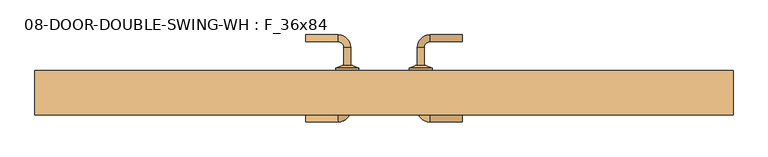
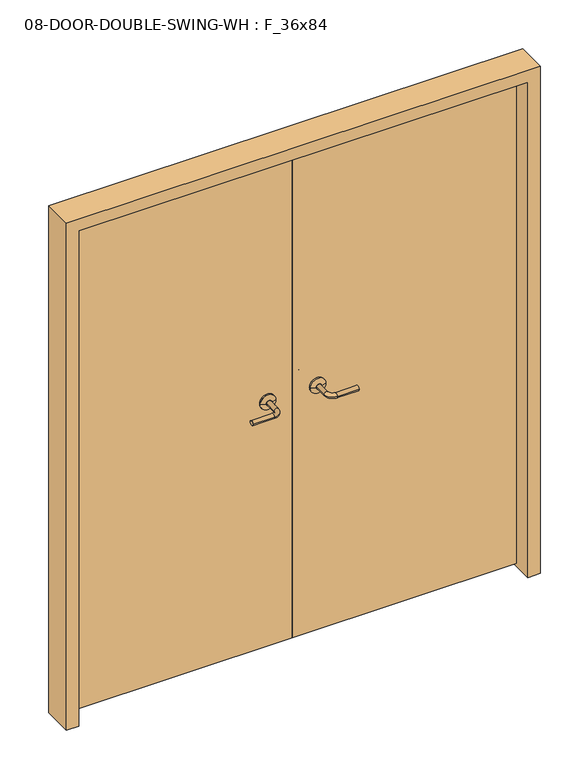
"""IFC4 building model written with IfcOpenShell, lengths in millimetres: door geometry, 08-DOOR-DOUBLE-SWING-WH : F_36x84."""

from ifc_helpers import new_model, si_unit, point, frame, origin, place, context, project, spatial, polyline, circle_curve, ellipse_curve, trimmed, outline, extrude, source, transform, mapped, element, save
from ifc_brep_helpers import plane_surface, cylinder_surface, revolved_surface, advanced_brep


def door_08_door_double_swing_wh_f_36x84_f193bb77(model_context):
    return source(origin(), model_context, "Body", "SolidModel", [
        advanced_brep(
        [(129.4903202, 4.7625, 1066.8), (110.4403202, 4.7625, 1066.8), (129.4903202, -46.0375, 1066.8), (110.4403202, -46.0375, 1066.8), (145.3653202, -61.9125, 1066.8), (145.3653202, -80.9625, 1066.8), (234.2653202, -61.9125, 1066.8), (234.2653202, -80.9625, 1066.8)],
        [
            (0, 1, circle_curve(frame((119.9653202, 4.7625, 1066.8), z_axis=(0.0, 1.0, 0.0), x_axis=(-1.0, 0.0, 0.0)), 9.525)),
            (1, 0, circle_curve(frame((119.9653202, 4.7625, 1066.8), z_axis=(0.0, 1.0, 0.0), x_axis=(-1.0, 0.0, 0.0)), 9.525)),
            (0, 2),
            (2, 3, circle_curve(frame((119.9653202, -46.0375, 1066.8), z_axis=(0.0, 1.0, 0.0), x_axis=(-1.0, 0.0, 0.0)), 9.525)),
            (3, 1),
            (3, 2, circle_curve(frame((119.9653202, -46.0375, 1066.8), z_axis=(0.0, 1.0, 0.0), x_axis=(-1.0, 0.0, 0.0)), 9.525)),
            (4, 5, circle_curve(frame((145.3653202, -71.4375, 1066.8), z_axis=(-1.0, 0.0, 0.0), x_axis=(0.0, -1.0, 0.0)), 9.525)),
            (5, 3, circle_curve(frame((145.3653202, -46.0375, 1066.8), z_axis=(0.0, 0.0, -1.0), x_axis=(-1.0, 0.0, 0.0)), 34.925)),
            (2, 4, circle_curve(frame((145.3653202, -46.0375, 1066.8), z_axis=(0.0, 0.0, 1.0), x_axis=(-1.0, 0.0, 0.0)), 15.875)),
            (5, 4, circle_curve(frame((145.3653202, -71.4375, 1066.8), z_axis=(-1.0, 0.0, 0.0), x_axis=(0.0, -1.0, 0.0)), 9.525)),
            (6, 7, circle_curve(frame((234.2653202, -71.4375, 1066.8), z_axis=(1.0, 0.0, 0.0), x_axis=(0.0, -1.0, 0.0)), 9.525)),
            (7, 6, circle_curve(frame((234.2653202, -71.4375, 1066.8), z_axis=(1.0, 0.0, 0.0), x_axis=(0.0, -1.0, 0.0)), 9.525)),
            (4, 6),
            (7, 5),
        ],
        [
            plane_surface(frame((119.9653202, 4.7625, 1066.8), z_axis=(0.0, 1.0, 0.0), x_axis=(0.0, 0.0, 1.0))),
            cylinder_surface(frame((119.9653202, 4.7625, 1066.8), z_axis=(0.0, 1.0, 0.0), x_axis=(-1.0, 0.0, 0.0)), 9.525),
            revolved_surface(trimmed(ellipse_curve(frame((119.9653202, -46.0375, 1066.8), z_axis=(0.0, -1.0, 0.0), x_axis=(-1.0, 0.0, 0.0)), 9.525, 9.525), [point((110.4403202, -46.0375, 1066.8))], [point((129.4903202, -46.0375, 1066.8))], True, "CARTESIAN"), (145.3653202, -46.0375, 1066.8), (0.0, 0.0, -1.0)),
            revolved_surface(trimmed(ellipse_curve(frame((119.9653202, -46.0375, 1066.8), z_axis=(0.0, -1.0, 0.0), x_axis=(-1.0, 0.0, 0.0)), 9.525, 9.525), [point((129.4903202, -46.0375, 1066.8))], [point((110.4403202, -46.0375, 1066.8))], True, "CARTESIAN"), (145.3653202, -46.0375, 1066.8), (0.0, 0.0, -1.0)),
            plane_surface(frame((234.2653202, -71.4375, 1066.8), z_axis=(1.0, 0.0, 0.0), x_axis=(0.0, 0.0, 1.0))),
            cylinder_surface(frame((145.3653202, -71.4375, 1066.8), z_axis=(-1.0, 0.0, 0.0), x_axis=(0.0, -1.0, 0.0)), 9.525),
        ],
        [
            (0, [[1, 2]]),
            (1, [[3, 4, 5, -1]]),
            (1, [[-5, 6, -3, -2]]),
            (2, [[7, 8, -4, 9]]),
            (3, [[10, -9, -6, -8]]),
            (4, [[11, 12]]),
            (5, [[13, -12, 14, -7]]),
            (5, [[-14, -11, -13, -10]]),
        ],
    ),
        advanced_brep(
        [(119.9653202, 17.4625, 1066.8), (151.7153202, 17.4625, 1066.8), (88.2153202, 17.4625, 1066.8), (151.7153202, 11.1125, 1066.8), (88.2153202, 11.1125, 1066.8), (132.6653202, 4.7625, 1066.8), (107.2653202, 4.7625, 1066.8), (119.9653202, 4.7625, 1066.8)],
        [
            (0, 1),
            (1, 2, circle_curve(frame((119.9653202, 17.4625, 1066.8), z_axis=(0.0, 1.0, 0.0), x_axis=(-1.0, 0.0, 0.0)), 31.75)),
            (2, 0),
            (2, 1, circle_curve(frame((119.9653202, 17.4625, 1066.8), z_axis=(0.0, 1.0, 0.0), x_axis=(-1.0, 0.0, 0.0)), 31.75)),
            (1, 3),
            (3, 4, circle_curve(frame((119.9653202, 11.1125, 1066.8), z_axis=(0.0, 1.0, 0.0), x_axis=(-1.0, 0.0, 0.0)), 31.75)),
            (4, 2),
            (4, 3, circle_curve(frame((119.9653202, 11.1125, 1066.8), z_axis=(0.0, 1.0, 0.0), x_axis=(-1.0, 0.0, 0.0)), 31.75)),
            (3, 5),
            (5, 6, circle_curve(frame((119.9653202, 4.7625, 1066.8), z_axis=(0.0, 1.0, 0.0), x_axis=(-1.0, 0.0, 0.0)), 12.7)),
            (6, 4),
            (6, 5, circle_curve(frame((119.9653202, 4.7625, 1066.8), z_axis=(0.0, 1.0, 0.0), x_axis=(-1.0, 0.0, 0.0)), 12.7)),
            (5, 7),
            (7, 6),
        ],
        [
            plane_surface(frame((119.9653202, 17.4625, 1066.8), z_axis=(0.0, 1.0, 0.0), x_axis=(-1.0, 0.0, 0.0))),
            cylinder_surface(frame((119.9653202, 7.8543504, 1066.8), z_axis=(0.0, 1.0, 0.0), x_axis=(-1.0, 0.0, 0.0)), 31.75),
            revolved_surface(polyline([(107.2653202, 4.7625, 1066.8), (88.2153202, 11.1125, 1066.8)]), (119.9653202, 7.8543504, 1066.8), (0.0, 1.0, 0.0)),
            plane_surface(frame((119.9653202, 4.7625, 1066.8), z_axis=(0.0, -1.0, 0.0), x_axis=(-1.0, 0.0, 0.0))),
        ],
        [
            (0, [[1, 2, 3]]),
            (0, [[-3, 4, -1]]),
            (1, [[5, 6, 7, -2]]),
            (1, [[-7, 8, -5, -4]]),
            (2, [[9, 10, 11, -6]]),
            (2, [[-11, 12, -9, -8]]),
            (3, [[13, 14, -10]]),
            (3, [[-14, -13, -12]]),
        ],
    ),
        advanced_brep(
        [(-92.7596798, 4.7625, 1066.8), (-73.7096798, 4.7625, 1066.8), (-73.7096798, -46.0375, 1066.8), (-92.7596798, -46.0375, 1066.8), (-108.6346798, -61.9125, 1066.8), (-108.6346798, -80.9625, 1066.8), (-197.5346798, -61.9125, 1066.8), (-197.5346798, -80.9625, 1066.8)],
        [
            (0, 1, circle_curve(frame((-83.2346798, 4.7625, 1066.8), z_axis=(0.0, 1.0, 0.0), x_axis=(1.0, 0.0, 0.0)), 9.525)),
            (1, 0, circle_curve(frame((-83.2346798, 4.7625, 1066.8), z_axis=(0.0, 1.0, 0.0), x_axis=(1.0, 0.0, 0.0)), 9.525)),
            (1, 2),
            (2, 3, circle_curve(frame((-83.2346798, -46.0375, 1066.8), z_axis=(0.0, 1.0, 0.0), x_axis=(1.0, 0.0, 0.0)), 9.525)),
            (3, 0),
            (3, 2, circle_curve(frame((-83.2346798, -46.0375, 1066.8), z_axis=(0.0, 1.0, 0.0), x_axis=(1.0, 0.0, 0.0)), 9.525)),
            (4, 3, circle_curve(frame((-108.6346798, -46.0375, 1066.8), z_axis=(0.0, 0.0, 1.0), x_axis=(1.0, 0.0, 0.0)), 15.875)),
            (2, 5, circle_curve(frame((-108.6346798, -46.0375, 1066.8), z_axis=(0.0, 0.0, -1.0), x_axis=(1.0, 0.0, 0.0)), 34.925)),
            (5, 4, circle_curve(frame((-108.6346798, -71.4375, 1066.8), z_axis=(1.0, 0.0, 0.0), x_axis=(0.0, -1.0, 0.0)), 9.525)),
            (4, 5, circle_curve(frame((-108.6346798, -71.4375, 1066.8), z_axis=(1.0, 0.0, 0.0), x_axis=(0.0, -1.0, 0.0)), 9.525)),
            (6, 7, circle_curve(frame((-197.5346798, -71.4375, 1066.8), z_axis=(-1.0, 0.0, 0.0), x_axis=(0.0, -1.0, 0.0)), 9.525)),
            (7, 6, circle_curve(frame((-197.5346798, -71.4375, 1066.8), z_axis=(-1.0, 0.0, 0.0), x_axis=(0.0, -1.0, 0.0)), 9.525)),
            (5, 7),
            (6, 4),
        ],
        [
            plane_surface(frame((-83.2346798, 4.7625, 1066.8), z_axis=(0.0, 1.0, 0.0), x_axis=(0.0, 0.0, 1.0))),
            cylinder_surface(frame((-83.2346798, 4.7625, 1066.8), z_axis=(0.0, 1.0, 0.0), x_axis=(1.0, 0.0, 0.0)), 9.525),
            revolved_surface(trimmed(ellipse_curve(frame((-83.2346798, -46.0375, 1066.8), z_axis=(0.0, 1.0, 0.0), x_axis=(1.0, 0.0, 0.0)), 9.525, 9.525), [point((-73.7096798, -46.0375, 1066.8))], [point((-92.7596798, -46.0375, 1066.8))], True, "CARTESIAN"), (-108.6346798, -46.0375, 1066.8), (0.0, 0.0, -1.0)),
            revolved_surface(trimmed(ellipse_curve(frame((-83.2346798, -46.0375, 1066.8), z_axis=(0.0, 1.0, 0.0), x_axis=(1.0, 0.0, 0.0)), 9.525, 9.525), [point((-92.7596798, -46.0375, 1066.8))], [point((-73.7096798, -46.0375, 1066.8))], True, "CARTESIAN"), (-108.6346798, -46.0375, 1066.8), (0.0, 0.0, -1.0)),
            plane_surface(frame((-197.5346798, -71.4375, 1066.8), z_axis=(-1.0, 0.0, 0.0), x_axis=(0.0, 0.0, 1.0))),
            cylinder_surface(frame((-108.6346798, -71.4375, 1066.8), z_axis=(1.0, 0.0, 0.0), x_axis=(0.0, -1.0, 0.0)), 9.525),
        ],
        [
            (0, [[1, 2]]),
            (1, [[-2, 3, 4, 5]]),
            (1, [[-1, -5, 6, -3]]),
            (2, [[7, -4, 8, 9]]),
            (3, [[-8, -6, -7, 10]]),
            (4, [[11, 12]]),
            (5, [[-9, 13, -11, 14]]),
            (5, [[-10, -14, -12, -13]]),
        ],
    ),
        advanced_brep(
        [(-83.2346798, 17.4625, 1066.8), (-51.4846798, 17.4625, 1066.8), (-114.9846798, 17.4625, 1066.8), (-51.4846798, 11.1125, 1066.8), (-114.9846798, 11.1125, 1066.8), (-70.5346798, 4.7625, 1066.8), (-95.9346798, 4.7625, 1066.8), (-83.2346798, 4.7625, 1066.8)],
        [
            (0, 1),
            (1, 2, circle_curve(frame((-83.2346798, 17.4625, 1066.8), z_axis=(0.0, 1.0, 0.0), x_axis=(1.0, 0.0, 0.0)), 31.75)),
            (2, 0),
            (2, 1, circle_curve(frame((-83.2346798, 17.4625, 1066.8), z_axis=(0.0, 1.0, 0.0), x_axis=(1.0, 0.0, 0.0)), 31.75)),
            (1, 3),
            (3, 4, circle_curve(frame((-83.2346798, 11.1125, 1066.8), z_axis=(0.0, 1.0, 0.0), x_axis=(1.0, 0.0, 0.0)), 31.75)),
            (4, 2),
            (4, 3, circle_curve(frame((-83.2346798, 11.1125, 1066.8), z_axis=(0.0, 1.0, 0.0), x_axis=(1.0, 0.0, 0.0)), 31.75)),
            (3, 5),
            (5, 6, circle_curve(frame((-83.2346798, 4.7625, 1066.8), z_axis=(0.0, 1.0, 0.0), x_axis=(1.0, 0.0, 0.0)), 12.7)),
            (6, 4),
            (6, 5, circle_curve(frame((-83.2346798, 4.7625, 1066.8), z_axis=(0.0, 1.0, 0.0), x_axis=(1.0, 0.0, 0.0)), 12.7)),
            (5, 7),
            (7, 6),
        ],
        [
            plane_surface(frame((-83.2346798, 17.4625, 1066.8), z_axis=(0.0, 1.0, 0.0), x_axis=(1.0, 0.0, 0.0))),
            cylinder_surface(frame((-83.2346798, 7.8543504, 1066.8), z_axis=(0.0, 1.0, 0.0), x_axis=(1.0, 0.0, 0.0)), 31.75),
            revolved_surface(polyline([(-70.5346798, 4.7625, 1066.8), (-51.4846798, 11.1125, 1066.8)]), (-83.2346798, 7.8543504, 1066.8), (0.0, 1.0, 0.0)),
            plane_surface(frame((-83.2346798, 4.7625, 1066.8), z_axis=(0.0, -1.0, 0.0), x_axis=(1.0, 0.0, 0.0))),
        ],
        [
            (0, [[1, 2, 3]]),
            (0, [[-3, 4, -1]]),
            (1, [[-2, 5, 6, 7]]),
            (1, [[-4, -7, 8, -5]]),
            (2, [[-6, 9, 10, 11]]),
            (2, [[-8, -11, 12, -9]]),
            (3, [[-10, 13, 14]]),
            (3, [[-12, -14, -13]]),
        ],
    ),
        advanced_brep(
        [(110.4403202, 74.6125, 1066.8), (129.4903202, 74.6125, 1066.8), (129.4903202, 125.4125, 1066.8), (110.4403202, 125.4125, 1066.8), (145.3653202, 141.2875, 1066.8), (145.3653202, 160.3375, 1066.8), (234.2653202, 160.3375, 1066.8), (234.2653202, 141.2875, 1066.8)],
        [
            (0, 1, circle_curve(frame((119.9653202, 74.6125, 1066.8), z_axis=(0.0, -1.0, 0.0), x_axis=(1.0, 0.0, 0.0)), 9.525)),
            (1, 0, circle_curve(frame((119.9653202, 74.6125, 1066.8), z_axis=(0.0, -1.0, 0.0), x_axis=(1.0, 0.0, 0.0)), 9.525)),
            (1, 2),
            (2, 3, circle_curve(frame((119.9653202, 125.4125, 1066.8), z_axis=(0.0, -1.0, 0.0), x_axis=(1.0, 0.0, 0.0)), 9.525)),
            (3, 0),
            (3, 2, circle_curve(frame((119.9653202, 125.4125, 1066.8), z_axis=(0.0, -1.0, 0.0), x_axis=(1.0, 0.0, 0.0)), 9.525)),
            (4, 5, circle_curve(frame((145.3653202, 150.8125, 1066.8), z_axis=(-1.0, 0.0, 0.0), x_axis=(0.0, -1.0, 0.0)), 9.525)),
            (5, 3, circle_curve(frame((145.3653202, 125.4125, 1066.8), z_axis=(0.0, 0.0, 1.0), x_axis=(-1.0, 0.0, 0.0)), 34.925)),
            (2, 4, circle_curve(frame((145.3653202, 125.4125, 1066.8), z_axis=(0.0, 0.0, -1.0), x_axis=(-1.0, 0.0, 0.0)), 15.875)),
            (5, 4, circle_curve(frame((145.3653202, 150.8125, 1066.8), z_axis=(-1.0, 0.0, 0.0), x_axis=(0.0, -1.0, 0.0)), 9.525)),
            (6, 7, circle_curve(frame((234.2653202, 150.8125, 1066.8), z_axis=(1.0, 0.0, 0.0), x_axis=(0.0, -1.0, 0.0)), 9.525)),
            (7, 6, circle_curve(frame((234.2653202, 150.8125, 1066.8), z_axis=(1.0, 0.0, 0.0), x_axis=(0.0, -1.0, 0.0)), 9.525)),
            (4, 7),
            (6, 5),
        ],
        [
            plane_surface(frame((119.9653202, 74.6125, 1066.8), z_axis=(0.0, -1.0, 0.0), x_axis=(0.0, 0.0, 1.0))),
            cylinder_surface(frame((119.9653202, 74.6125, 1066.8), z_axis=(0.0, -1.0, 0.0), x_axis=(1.0, 0.0, 0.0)), 9.525),
            revolved_surface(trimmed(ellipse_curve(frame((119.9653202, 125.4125, 1066.8), z_axis=(0.0, 1.0, 0.0), x_axis=(1.0, 0.0, 0.0)), 9.525, 9.525), [point((110.4403202, 125.4125, 1066.8))], [point((129.4903202, 125.4125, 1066.8))], True, "CARTESIAN"), (145.3653202, 125.4125, 1066.8), (0.0, 0.0, 1.0)),
            revolved_surface(trimmed(ellipse_curve(frame((119.9653202, 125.4125, 1066.8), z_axis=(0.0, 1.0, 0.0), x_axis=(1.0, 0.0, 0.0)), 9.525, 9.525), [point((129.4903202, 125.4125, 1066.8))], [point((110.4403202, 125.4125, 1066.8))], True, "CARTESIAN"), (145.3653202, 125.4125, 1066.8), (0.0, 0.0, 1.0)),
            plane_surface(frame((234.2653202, 150.8125, 1066.8), z_axis=(1.0, 0.0, 0.0), x_axis=(0.0, 0.0, 1.0))),
            cylinder_surface(frame((145.3653202, 150.8125, 1066.8), z_axis=(-1.0, 0.0, 0.0), x_axis=(0.0, -1.0, 0.0)), 9.525),
        ],
        [
            (0, [[1, 2]]),
            (1, [[3, 4, 5, -2]]),
            (1, [[-5, 6, -3, -1]]),
            (2, [[7, 8, -4, 9]]),
            (3, [[10, -9, -6, -8]]),
            (4, [[11, 12]]),
            (5, [[13, -11, 14, -7]]),
            (5, [[-14, -12, -13, -10]]),
        ],
    ),
        advanced_brep(
        [(151.7153202, 61.9125, 1066.8), (119.9653202, 61.9125, 1066.8), (88.2153202, 61.9125, 1066.8), (151.7153202, 68.2625, 1066.8), (88.2153202, 68.2625, 1066.8), (132.6653202, 74.6125, 1066.8), (107.2653202, 74.6125, 1066.8), (119.9653202, 74.6125, 1066.8)],
        [
            (0, 1),
            (1, 2),
            (2, 0, circle_curve(frame((119.9653202, 61.9125, 1066.8), z_axis=(0.0, -1.0, 0.0), x_axis=(-1.0, 0.0, 0.0)), 31.75)),
            (0, 2, circle_curve(frame((119.9653202, 61.9125, 1066.8), z_axis=(0.0, -1.0, 0.0), x_axis=(-1.0, 0.0, 0.0)), 31.75)),
            (3, 0),
            (2, 4),
            (4, 3, circle_curve(frame((119.9653202, 68.2625, 1066.8), z_axis=(0.0, -1.0, 0.0), x_axis=(-1.0, 0.0, 0.0)), 31.75)),
            (3, 4, circle_curve(frame((119.9653202, 68.2625, 1066.8), z_axis=(0.0, -1.0, 0.0), x_axis=(-1.0, 0.0, 0.0)), 31.75)),
            (5, 3),
            (4, 6),
            (6, 5, circle_curve(frame((119.9653202, 74.6125, 1066.8), z_axis=(0.0, -1.0, 0.0), x_axis=(-1.0, 0.0, 0.0)), 12.7)),
            (5, 6, circle_curve(frame((119.9653202, 74.6125, 1066.8), z_axis=(0.0, -1.0, 0.0), x_axis=(-1.0, 0.0, 0.0)), 12.7)),
            (7, 5),
            (6, 7),
        ],
        [
            plane_surface(frame((119.9653202, 61.9125, 1066.8), z_axis=(0.0, -1.0, 0.0), x_axis=(-1.0, 0.0, 0.0))),
            cylinder_surface(frame((119.9653202, 71.5206496, 1066.8), z_axis=(0.0, 1.0, 0.0), x_axis=(-1.0, 0.0, 0.0)), 31.75),
            revolved_surface(polyline([(88.2153202, 68.2625, 1066.8), (107.2653202, 74.6125, 1066.8)]), (119.9653202, 71.5206496, 1066.8), (0.0, 1.0, 0.0)),
            plane_surface(frame((119.9653202, 74.6125, 1066.8), z_axis=(0.0, 1.0, 0.0), x_axis=(-1.0, 0.0, 0.0))),
        ],
        [
            (0, [[1, 2, 3]]),
            (0, [[-2, -1, 4]]),
            (1, [[5, -3, 6, 7]]),
            (1, [[-6, -4, -5, 8]]),
            (2, [[9, -7, 10, 11]]),
            (2, [[-10, -8, -9, 12]]),
            (3, [[13, -11, 14]]),
            (3, [[-14, -12, -13]]),
        ],
    ),
        advanced_brep(
        [(-73.7096798, 74.6125, 1066.8), (-92.7596798, 74.6125, 1066.8), (-73.7096798, 125.4125, 1066.8), (-92.7596798, 125.4125, 1066.8), (-108.6346798, 141.2875, 1066.8), (-108.6346798, 160.3375, 1066.8), (-197.5346798, 160.3375, 1066.8), (-197.5346798, 141.2875, 1066.8)],
        [
            (0, 1, circle_curve(frame((-83.2346798, 74.6125, 1066.8), z_axis=(0.0, -1.0, 0.0), x_axis=(-1.0, 0.0, 0.0)), 9.525)),
            (1, 0, circle_curve(frame((-83.2346798, 74.6125, 1066.8), z_axis=(0.0, -1.0, 0.0), x_axis=(-1.0, 0.0, 0.0)), 9.525)),
            (0, 2),
            (2, 3, circle_curve(frame((-83.2346798, 125.4125, 1066.8), z_axis=(0.0, -1.0, 0.0), x_axis=(-1.0, 0.0, 0.0)), 9.525)),
            (3, 1),
            (3, 2, circle_curve(frame((-83.2346798, 125.4125, 1066.8), z_axis=(0.0, -1.0, 0.0), x_axis=(-1.0, 0.0, 0.0)), 9.525)),
            (4, 3, circle_curve(frame((-108.6346798, 125.4125, 1066.8), z_axis=(0.0, 0.0, -1.0), x_axis=(1.0, 0.0, 0.0)), 15.875)),
            (2, 5, circle_curve(frame((-108.6346798, 125.4125, 1066.8), z_axis=(0.0, 0.0, 1.0), x_axis=(1.0, 0.0, 0.0)), 34.925)),
            (5, 4, circle_curve(frame((-108.6346798, 150.8125, 1066.8), z_axis=(1.0, 0.0, 0.0), x_axis=(0.0, -1.0, 0.0)), 9.525)),
            (4, 5, circle_curve(frame((-108.6346798, 150.8125, 1066.8), z_axis=(1.0, 0.0, 0.0), x_axis=(0.0, -1.0, 0.0)), 9.525)),
            (6, 7, circle_curve(frame((-197.5346798, 150.8125, 1066.8), z_axis=(-1.0, 0.0, 0.0), x_axis=(0.0, -1.0, 0.0)), 9.525)),
            (7, 6, circle_curve(frame((-197.5346798, 150.8125, 1066.8), z_axis=(-1.0, 0.0, 0.0), x_axis=(0.0, -1.0, 0.0)), 9.525)),
            (5, 6),
            (7, 4),
        ],
        [
            plane_surface(frame((-83.2346798, 74.6125, 1066.8), z_axis=(0.0, -1.0, 0.0), x_axis=(0.0, 0.0, 1.0))),
            cylinder_surface(frame((-83.2346798, 74.6125, 1066.8), z_axis=(0.0, -1.0, 0.0), x_axis=(-1.0, 0.0, 0.0)), 9.525),
            revolved_surface(trimmed(ellipse_curve(frame((-83.2346798, 125.4125, 1066.8), z_axis=(0.0, -1.0, 0.0), x_axis=(-1.0, 0.0, 0.0)), 9.525, 9.525), [point((-73.7096798, 125.4125, 1066.8))], [point((-92.7596798, 125.4125, 1066.8))], True, "CARTESIAN"), (-108.6346798, 125.4125, 1066.8), (0.0, 0.0, 1.0)),
            revolved_surface(trimmed(ellipse_curve(frame((-83.2346798, 125.4125, 1066.8), z_axis=(0.0, -1.0, 0.0), x_axis=(-1.0, 0.0, 0.0)), 9.525, 9.525), [point((-92.7596798, 125.4125, 1066.8))], [point((-73.7096798, 125.4125, 1066.8))], True, "CARTESIAN"), (-108.6346798, 125.4125, 1066.8), (0.0, 0.0, 1.0)),
            plane_surface(frame((-197.5346798, 150.8125, 1066.8), z_axis=(-1.0, 0.0, 0.0), x_axis=(0.0, 0.0, 1.0))),
            cylinder_surface(frame((-108.6346798, 150.8125, 1066.8), z_axis=(1.0, 0.0, 0.0), x_axis=(0.0, -1.0, 0.0)), 9.525),
        ],
        [
            (0, [[1, 2]]),
            (1, [[-1, 3, 4, 5]]),
            (1, [[-2, -5, 6, -3]]),
            (2, [[7, -4, 8, 9]]),
            (3, [[-8, -6, -7, 10]]),
            (4, [[11, 12]]),
            (5, [[-9, 13, -12, 14]]),
            (5, [[-10, -14, -11, -13]]),
        ],
    ),
        advanced_brep(
        [(-114.9846798, 61.9125, 1066.8), (-51.4846798, 61.9125, 1066.8), (-83.2346798, 61.9125, 1066.8), (-114.9846798, 68.2625, 1066.8), (-51.4846798, 68.2625, 1066.8), (-95.9346798, 74.6125, 1066.8), (-70.5346798, 74.6125, 1066.8), (-83.2346798, 74.6125, 1066.8)],
        [
            (0, 1, circle_curve(frame((-83.2346798, 61.9125, 1066.8), z_axis=(0.0, -1.0, 0.0), x_axis=(1.0, 0.0, 0.0)), 31.75)),
            (1, 2),
            (2, 0),
            (1, 0, circle_curve(frame((-83.2346798, 61.9125, 1066.8), z_axis=(0.0, -1.0, 0.0), x_axis=(1.0, 0.0, 0.0)), 31.75)),
            (3, 4, circle_curve(frame((-83.2346798, 68.2625, 1066.8), z_axis=(0.0, -1.0, 0.0), x_axis=(1.0, 0.0, 0.0)), 31.75)),
            (4, 1),
            (0, 3),
            (4, 3, circle_curve(frame((-83.2346798, 68.2625, 1066.8), z_axis=(0.0, -1.0, 0.0), x_axis=(1.0, 0.0, 0.0)), 31.75)),
            (5, 6, circle_curve(frame((-83.2346798, 74.6125, 1066.8), z_axis=(0.0, -1.0, 0.0), x_axis=(1.0, 0.0, 0.0)), 12.7)),
            (6, 4),
            (3, 5),
            (6, 5, circle_curve(frame((-83.2346798, 74.6125, 1066.8), z_axis=(0.0, -1.0, 0.0), x_axis=(1.0, 0.0, 0.0)), 12.7)),
            (7, 6),
            (5, 7),
        ],
        [
            plane_surface(frame((-83.2346798, 61.9125, 1066.8), z_axis=(0.0, -1.0, 0.0), x_axis=(1.0, 0.0, 0.0))),
            cylinder_surface(frame((-83.2346798, 71.5206496, 1066.8), z_axis=(0.0, 1.0, 0.0), x_axis=(1.0, 0.0, 0.0)), 31.75),
            revolved_surface(polyline([(-51.4846798, 68.2625, 1066.8), (-70.5346798, 74.6125, 1066.8)]), (-83.2346798, 71.5206496, 1066.8), (0.0, 1.0, 0.0)),
            plane_surface(frame((-83.2346798, 74.6125, 1066.8), z_axis=(0.0, 1.0, 0.0), x_axis=(1.0, 0.0, 0.0))),
        ],
        [
            (0, [[1, 2, 3]]),
            (0, [[4, -3, -2]]),
            (1, [[5, 6, -1, 7]]),
            (1, [[8, -7, -4, -6]]),
            (2, [[9, 10, -5, 11]]),
            (2, [[12, -11, -8, -10]]),
            (3, [[13, -9, 14]]),
            (3, [[-14, -12, -13]]),
        ],
    ),
        extrude(outline(polyline([(18.3653202, 17.4625), (18.3653202, 61.9125), (932.7653202, 61.9125), (932.7653202, 17.4625), (18.3653202, 17.4625)])), frame((0.0, 0.0, 12.7), z_axis=(0.0, 0.0, 1.0), x_axis=(1.0, 0.0, 0.0)), (0.0, 0.0, 1.0), 2120.9),
        extrude(outline(polyline([(18.3653202, 17.4625), (-896.0346798, 17.4625), (-896.0346798, 61.9125), (18.3653202, 61.9125), (18.3653202, 17.4625)])), frame((0.0, 0.0, 12.7), z_axis=(0.0, 0.0, 1.0), x_axis=(1.0, 0.0, 0.0)), (0.0, 0.0, 1.0), 2120.9),
        extrude(outline(polyline([(0.0, 932.7653202), (0.0, 983.5653202), (2184.4, 983.5653202), (2184.4, -946.8346798), (0.0, -946.8346798), (0.0, -896.0346798), (2133.6, -896.0346798), (2133.6, 932.7653202), (0.0, 932.7653202)])), frame((0.0, -61.9125, 0.0), z_axis=(0.0, 1.0, 0.0), x_axis=(0.0, 0.0, 1.0)), (0.0, 0.0, 1.0), 123.825),
    ])


if __name__ == "__main__":
    model = new_model("IFC4")
    model_context = context("Model", 3, world=origin())
    ifc_project = project(units=[si_unit("LENGTHUNIT", "METRE", prefix="MILLI")], contexts=[model_context])
    site = spatial("IfcSite", under=ifc_project)
    building = spatial("IfcBuilding", under=site)
    placement = place(None, origin())
    door_08_door_double_swing_wh_f_36x84_shape = door_08_door_double_swing_wh_f_36x84_f193bb77(model_context)
    element("IfcDoor", 1, ObjectType="08-DOOR-DOUBLE-SWING-WH : F_36x84", at=placement, inside=building, context=model_context, shape_type="MappedRepresentation", body=[
        mapped(door_08_door_double_swing_wh_f_36x84_shape, transform((0.0, 0.0, 0.0), x_axis=(1.0, 0.0, 0.0), y_axis=(0.0, 1.0, 0.0), z_axis=(0.0, 0.0, 1.0))),
    ])
    save(model, "model.ifc")
